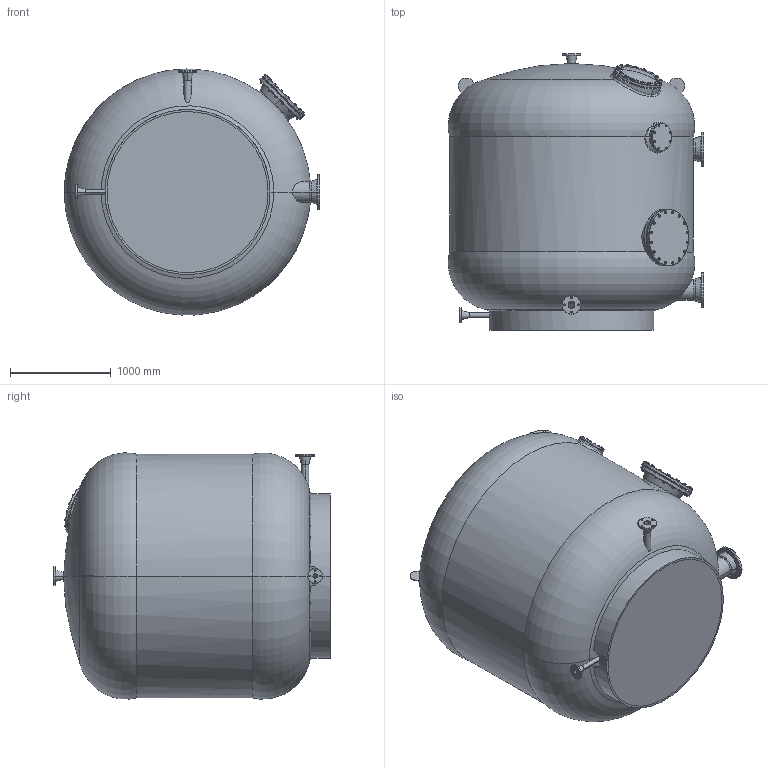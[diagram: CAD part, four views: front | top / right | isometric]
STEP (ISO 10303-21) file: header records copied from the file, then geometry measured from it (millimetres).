
FILE_DESCRIPTION (( 'STEP AP214' ), '1' );
FILE_NAME ('mediterran240c_.STEP', '2020-11-03T12:27:18', ( '' ), ( '' ), 'SwSTEP 2.0', 'SolidWorks 2019', '' );
FILE_SCHEMA (( 'AUTOMOTIVE_DESIGN' ));
Length unit declared in the file: millimetre
Products named in the file (1): mediterran240c_
Bounding box: 2538.39 x 2749.25 x 2446.94 mm (x, y, z)
Surface area: 30789387.6 mm2 (no closed solid volume)
Topology: 0 solids, 188 shells, 766 faces, 2579 edges, 1936 vertices
Faces by surface type: plane 430, cylinder 179, torus 78, cone 68, bspline 7, sphere 4
Entity records: 62261 total; most frequent: CARTESIAN_POINT 36546, ORIENTED_EDGE 3576, EDGE_CURVE 2577, B_SPLINE_CURVE_WITH_KNOTS 2259, DIRECTION 2070, VERTEX_POINT 1936, AXIS2_PLACEMENT_3D 992, EDGE_LOOP 837
